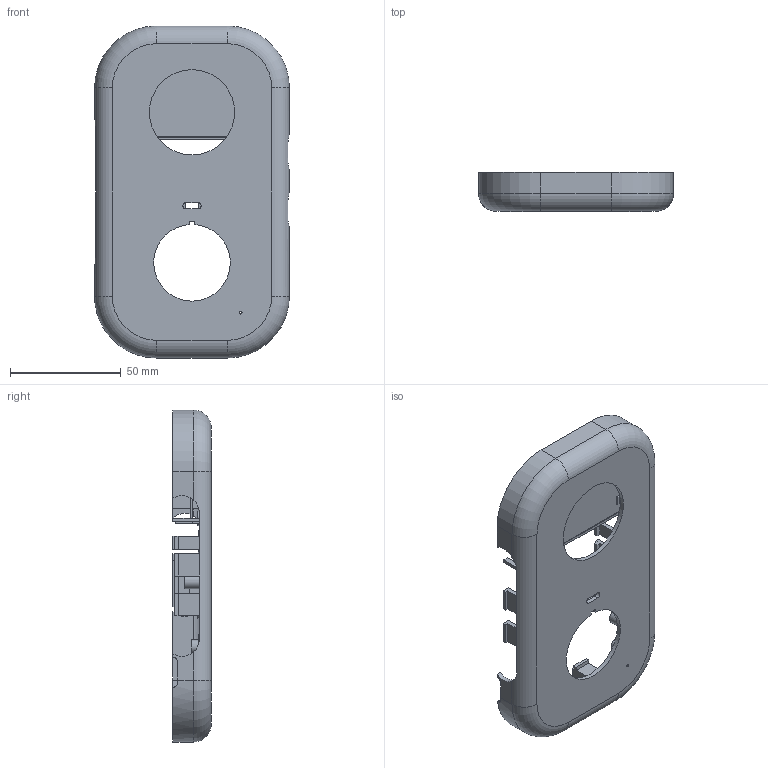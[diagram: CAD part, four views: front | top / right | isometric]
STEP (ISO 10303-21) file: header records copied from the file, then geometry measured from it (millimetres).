
FILE_DESCRIPTION(('Open CASCADE Model'),'2;1');
FILE_NAME('front_chassis_PA12','2026-09-04T19:55:13',('Author'),( 'Open CASCADE'),'Open CASCADE STEP processor 7.8','build123d', 'Unknown');
FILE_SCHEMA(('AUTOMOTIVE_DESIGN { 1 0 10303 214 1 1 1 1 }'));
Length unit declared in the file: millimetre
Products named in the file (1): front_chassis_PA12
Bounding box: 88 x 17.4 x 150 mm (x, y, z)
Volume: 43442.2 mm3; surface area: 43971.3 mm2
Topology: 1 solids, 1 shells, 324 faces, 831 edges, 546 vertices
Faces by surface type: plane 246, cylinder 66, torus 12
Full cylindrical faces by diameter (mm): 1.2 x1, 3.2 x14, 6.4 x10, 38.5 x1
Entity records: 23324 total; most frequent: CARTESIAN_POINT 7433, DIRECTION 2676, ORIENTED_EDGE 1662, PCURVE 1662, DEFINITIONAL_REPRESENTATION 1662, LINE 1630, VECTOR 1630, EDGE_CURVE 831
